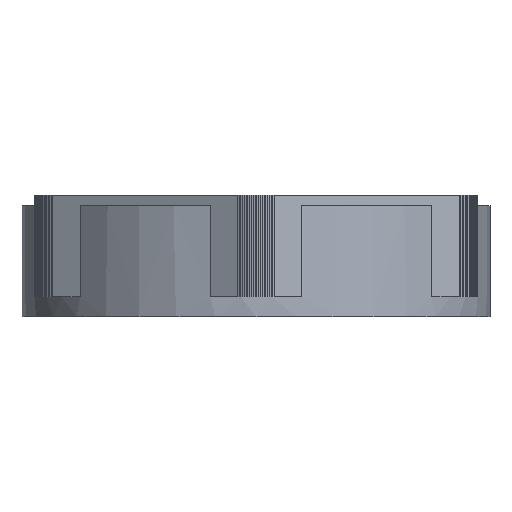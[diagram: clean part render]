
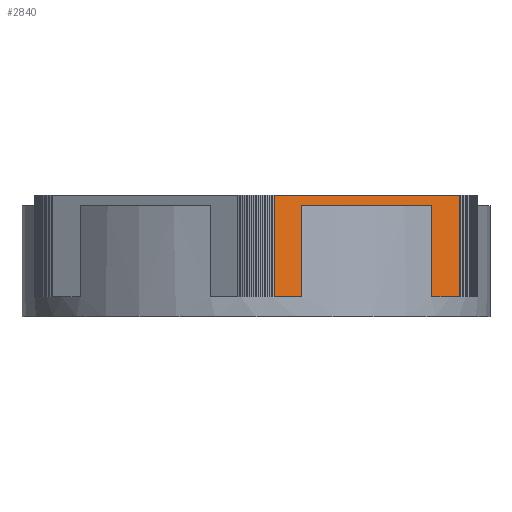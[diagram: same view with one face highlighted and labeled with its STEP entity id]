
A CAD part, left-side view. The second image highlights one B-rep face of the part: STEP entity #2840.
In plain terms, the highlighted planar face has unit normal (-0.866, -0.5, 0).
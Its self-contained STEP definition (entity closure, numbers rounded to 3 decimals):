
#32 = CYLINDRICAL_SURFACE('',#33,28.8);
#33 = AXIS2_PLACEMENT_3D('',#34,#35,#36);
#34 = CARTESIAN_POINT('',(0.,0.,6.1));
#35 = DIRECTION('',(-0.,-0.,-1.));
#36 = DIRECTION('',(1.,0.,0.));
#395 = VERTEX_POINT('',#396);
#396 = CARTESIAN_POINT('',(-28.244,-5.634,8.6));
#411 = PLANE('',#412);
#412 = AXIS2_PLACEMENT_3D('',#413,#414,#415);
#413 = CARTESIAN_POINT('',(0.,0.,8.6));
#414 = DIRECTION('',(-0.,-0.,-1.));
#415 = DIRECTION('',(-1.,0.,0.));
#423 = EDGE_CURVE('',#424,#395,#426,.T.);
#424 = VERTEX_POINT('',#425);
#425 = CARTESIAN_POINT('',(-28.244,-5.634,19.8));
#426 = SURFACE_CURVE('',#427,(#431,#437),.PCURVE_S1.);
#427 = LINE('',#428,#429);
#428 = CARTESIAN_POINT('',(-28.244,-5.634,6.1));
#429 = VECTOR('',#430,1.);
#430 = DIRECTION('',(-0.,-0.,-1.));
#431 = PCURVE('',#32,#432);
#432 = DEFINITIONAL_REPRESENTATION('',(#433),#436);
#433 = B_SPLINE_CURVE_WITH_KNOTS('',1,(#434,#435),.UNSPECIFIED.,.F.,.F.,
  (2,2),(-13.7,-1.25),.PIECEWISE_BEZIER_KNOTS.);
#434 = CARTESIAN_POINT('',(-3.338,-13.7));
#435 = CARTESIAN_POINT('',(-3.338,-1.25));
#436 = ( GEOMETRIC_REPRESENTATION_CONTEXT(2) 
PARAMETRIC_REPRESENTATION_CONTEXT() REPRESENTATION_CONTEXT('2D SPACE',''
  ) );
#437 = PCURVE('',#438,#443);
#438 = PLANE('',#439);
#439 = AXIS2_PLACEMENT_3D('',#440,#441,#442);
#440 = CARTESIAN_POINT('',(-17.047,-25.026,8.6));
#441 = DIRECTION('',(-0.866,-0.5,0.));
#442 = DIRECTION('',(-0.5,0.866,0.));
#443 = DEFINITIONAL_REPRESENTATION('',(#444),#447);
#444 = B_SPLINE_CURVE_WITH_KNOTS('',1,(#445,#446),.UNSPECIFIED.,.F.,.F.,
  (2,2),(-13.7,-1.25),.PIECEWISE_BEZIER_KNOTS.);
#445 = CARTESIAN_POINT('',(22.393,-11.2));
#446 = CARTESIAN_POINT('',(22.393,1.25));
#447 = ( GEOMETRIC_REPRESENTATION_CONTEXT(2) 
PARAMETRIC_REPRESENTATION_CONTEXT() REPRESENTATION_CONTEXT('2D SPACE',''
  ) );
#450 = VERTEX_POINT('',#451);
#451 = CARTESIAN_POINT('',(-19.001,-21.643,19.8));
#466 = PLANE('',#467);
#467 = AXIS2_PLACEMENT_3D('',#468,#469,#470);
#468 = CARTESIAN_POINT('',(0.,0.,19.8)
  );
#469 = DIRECTION('',(0.,0.,1.));
#470 = DIRECTION('',(1.,0.,-0.));
#478 = EDGE_CURVE('',#450,#479,#481,.T.);
#479 = VERTEX_POINT('',#480);
#480 = CARTESIAN_POINT('',(-19.001,-21.643,8.6));
#481 = SURFACE_CURVE('',#482,(#486,#492),.PCURVE_S1.);
#482 = LINE('',#483,#484);
#483 = CARTESIAN_POINT('',(-19.001,-21.643,6.1));
#484 = VECTOR('',#485,1.);
#485 = DIRECTION('',(-0.,-0.,-1.));
#486 = PCURVE('',#32,#487);
#487 = DEFINITIONAL_REPRESENTATION('',(#488),#491);
#488 = B_SPLINE_CURVE_WITH_KNOTS('',1,(#489,#490),.UNSPECIFIED.,.F.,.F.,
  (2,2),(-13.7,-1.25),.PIECEWISE_BEZIER_KNOTS.);
#489 = CARTESIAN_POINT('',(-3.992,-13.7));
#490 = CARTESIAN_POINT('',(-3.992,-1.25));
#491 = ( GEOMETRIC_REPRESENTATION_CONTEXT(2) 
PARAMETRIC_REPRESENTATION_CONTEXT() REPRESENTATION_CONTEXT('2D SPACE',''
  ) );
#492 = PCURVE('',#438,#493);
#493 = DEFINITIONAL_REPRESENTATION('',(#494),#497);
#494 = B_SPLINE_CURVE_WITH_KNOTS('',1,(#495,#496),.UNSPECIFIED.,.F.,.F.,
  (2,2),(-13.7,-1.25),.PIECEWISE_BEZIER_KNOTS.);
#495 = CARTESIAN_POINT('',(3.907,-11.2));
#496 = CARTESIAN_POINT('',(3.907,1.25));
#497 = ( GEOMETRIC_REPRESENTATION_CONTEXT(2) 
PARAMETRIC_REPRESENTATION_CONTEXT() REPRESENTATION_CONTEXT('2D SPACE',''
  ) );
#516 = PLANE('',#517);
#517 = AXIS2_PLACEMENT_3D('',#518,#519,#520);
#518 = CARTESIAN_POINT('',(0.,0.,8.6));
#519 = DIRECTION('',(-0.,-0.,-1.));
#520 = DIRECTION('',(-1.,0.,0.));
#1411 = PLANE('',#1412);
#1412 = AXIS2_PLACEMENT_3D('',#1413,#1414,#1415);
#1413 = CARTESIAN_POINT('',(0.,0.,21.1)
  );
#1414 = DIRECTION('',(-0.,-0.,-1.));
#1415 = DIRECTION('',(-1.,0.,0.));
#2793 = VERTEX_POINT('',#2794);
#2794 = CARTESIAN_POINT('',(-17.047,-25.026,8.6));
#2808 = PLANE('',#2809);
#2809 = AXIS2_PLACEMENT_3D('',#2810,#2811,#2812);
#2810 = CARTESIAN_POINT('',(-16.93,-25.218,8.6));
#2811 = DIRECTION('',(-0.853,-0.521,0.));
#2812 = DIRECTION('',(-0.521,0.853,0.));
#2820 = EDGE_CURVE('',#2793,#479,#2821,.T.);
#2821 = SURFACE_CURVE('',#2822,(#2826,#2833),.PCURVE_S1.);
#2822 = LINE('',#2823,#2824);
#2823 = CARTESIAN_POINT('',(-17.047,-25.026,8.6));
#2824 = VECTOR('',#2825,1.);
#2825 = DIRECTION('',(-0.5,0.866,0.));
#2826 = PCURVE('',#516,#2827);
#2827 = DEFINITIONAL_REPRESENTATION('',(#2828),#2832);
#2828 = LINE('',#2829,#2830);
#2829 = CARTESIAN_POINT('',(17.047,-25.026));
#2830 = VECTOR('',#2831,1.);
#2831 = DIRECTION('',(0.5,0.866));
#2832 = ( GEOMETRIC_REPRESENTATION_CONTEXT(2) 
PARAMETRIC_REPRESENTATION_CONTEXT() REPRESENTATION_CONTEXT('2D SPACE',''
  ) );
#2833 = PCURVE('',#438,#2834);
#2834 = DEFINITIONAL_REPRESENTATION('',(#2835),#2839);
#2835 = LINE('',#2836,#2837);
#2836 = CARTESIAN_POINT('',(0.,0.));
#2837 = VECTOR('',#2838,1.);
#2838 = DIRECTION('',(1.,0.));
#2839 = ( GEOMETRIC_REPRESENTATION_CONTEXT(2) 
PARAMETRIC_REPRESENTATION_CONTEXT() REPRESENTATION_CONTEXT('2D SPACE',''
  ) );
#2840 = ADVANCED_FACE('',(#2841),#438,.T.);
#2841 = FACE_BOUND('',#2842,.T.);
#2842 = EDGE_LOOP('',(#2843,#2844,#2867,#2890,#2918,#2939,#2940,#2959));
#2843 = ORIENTED_EDGE('',*,*,#2820,.F.);
#2844 = ORIENTED_EDGE('',*,*,#2845,.T.);
#2845 = EDGE_CURVE('',#2793,#2846,#2848,.T.);
#2846 = VERTEX_POINT('',#2847);
#2847 = CARTESIAN_POINT('',(-17.047,-25.026,21.1));
#2848 = SURFACE_CURVE('',#2849,(#2853,#2860),.PCURVE_S1.);
#2849 = LINE('',#2850,#2851);
#2850 = CARTESIAN_POINT('',(-17.047,-25.026,8.6));
#2851 = VECTOR('',#2852,1.);
#2852 = DIRECTION('',(0.,0.,1.));
#2853 = PCURVE('',#438,#2854);
#2854 = DEFINITIONAL_REPRESENTATION('',(#2855),#2859);
#2855 = LINE('',#2856,#2857);
#2856 = CARTESIAN_POINT('',(0.,0.));
#2857 = VECTOR('',#2858,1.);
#2858 = DIRECTION('',(0.,-1.));
#2859 = ( GEOMETRIC_REPRESENTATION_CONTEXT(2) 
PARAMETRIC_REPRESENTATION_CONTEXT() REPRESENTATION_CONTEXT('2D SPACE',''
  ) );
#2860 = PCURVE('',#2808,#2861);
#2861 = DEFINITIONAL_REPRESENTATION('',(#2862),#2866);
#2862 = LINE('',#2863,#2864);
#2863 = CARTESIAN_POINT('',(0.224,0.));
#2864 = VECTOR('',#2865,1.);
#2865 = DIRECTION('',(0.,-1.));
#2866 = ( GEOMETRIC_REPRESENTATION_CONTEXT(2) 
PARAMETRIC_REPRESENTATION_CONTEXT() REPRESENTATION_CONTEXT('2D SPACE',''
  ) );
#2867 = ORIENTED_EDGE('',*,*,#2868,.T.);
#2868 = EDGE_CURVE('',#2846,#2869,#2871,.T.);
#2869 = VERTEX_POINT('',#2870);
#2870 = CARTESIAN_POINT('',(-30.197,-2.25,21.1));
#2871 = SURFACE_CURVE('',#2872,(#2876,#2883),.PCURVE_S1.);
#2872 = LINE('',#2873,#2874);
#2873 = CARTESIAN_POINT('',(-17.047,-25.026,21.1));
#2874 = VECTOR('',#2875,1.);
#2875 = DIRECTION('',(-0.5,0.866,0.));
#2876 = PCURVE('',#438,#2877);
#2877 = DEFINITIONAL_REPRESENTATION('',(#2878),#2882);
#2878 = LINE('',#2879,#2880);
#2879 = CARTESIAN_POINT('',(0.,-12.5));
#2880 = VECTOR('',#2881,1.);
#2881 = DIRECTION('',(1.,0.));
#2882 = ( GEOMETRIC_REPRESENTATION_CONTEXT(2) 
PARAMETRIC_REPRESENTATION_CONTEXT() REPRESENTATION_CONTEXT('2D SPACE',''
  ) );
#2883 = PCURVE('',#1411,#2884);
#2884 = DEFINITIONAL_REPRESENTATION('',(#2885),#2889);
#2885 = LINE('',#2886,#2887);
#2886 = CARTESIAN_POINT('',(17.047,-25.026));
#2887 = VECTOR('',#2888,1.);
#2888 = DIRECTION('',(0.5,0.866));
#2889 = ( GEOMETRIC_REPRESENTATION_CONTEXT(2) 
PARAMETRIC_REPRESENTATION_CONTEXT() REPRESENTATION_CONTEXT('2D SPACE',''
  ) );
#2890 = ORIENTED_EDGE('',*,*,#2891,.F.);
#2891 = EDGE_CURVE('',#2892,#2869,#2894,.T.);
#2892 = VERTEX_POINT('',#2893);
#2893 = CARTESIAN_POINT('',(-30.197,-2.25,8.6));
#2894 = SURFACE_CURVE('',#2895,(#2899,#2906),.PCURVE_S1.);
#2895 = LINE('',#2896,#2897);
#2896 = CARTESIAN_POINT('',(-30.197,-2.25,8.6));
#2897 = VECTOR('',#2898,1.);
#2898 = DIRECTION('',(0.,0.,1.));
#2899 = PCURVE('',#438,#2900);
#2900 = DEFINITIONAL_REPRESENTATION('',(#2901),#2905);
#2901 = LINE('',#2902,#2903);
#2902 = CARTESIAN_POINT('',(26.3,0.));
#2903 = VECTOR('',#2904,1.);
#2904 = DIRECTION('',(0.,-1.));
#2905 = ( GEOMETRIC_REPRESENTATION_CONTEXT(2) 
PARAMETRIC_REPRESENTATION_CONTEXT() REPRESENTATION_CONTEXT('2D SPACE',''
  ) );
#2906 = PCURVE('',#2907,#2912);
#2907 = PLANE('',#2908);
#2908 = AXIS2_PLACEMENT_3D('',#2909,#2910,#2911);
#2909 = CARTESIAN_POINT('',(-30.197,-2.25,8.6));
#2910 = DIRECTION('',(-0.878,-0.478,0.));
#2911 = DIRECTION('',(-0.478,0.878,0.));
#2912 = DEFINITIONAL_REPRESENTATION('',(#2913),#2917);
#2913 = LINE('',#2914,#2915);
#2914 = CARTESIAN_POINT('',(0.,0.));
#2915 = VECTOR('',#2916,1.);
#2916 = DIRECTION('',(0.,-1.));
#2917 = ( GEOMETRIC_REPRESENTATION_CONTEXT(2) 
PARAMETRIC_REPRESENTATION_CONTEXT() REPRESENTATION_CONTEXT('2D SPACE',''
  ) );
#2918 = ORIENTED_EDGE('',*,*,#2919,.F.);
#2919 = EDGE_CURVE('',#395,#2892,#2920,.T.);
#2920 = SURFACE_CURVE('',#2921,(#2925,#2932),.PCURVE_S1.);
#2921 = LINE('',#2922,#2923);
#2922 = CARTESIAN_POINT('',(-17.047,-25.026,8.6));
#2923 = VECTOR('',#2924,1.);
#2924 = DIRECTION('',(-0.5,0.866,0.));
#2925 = PCURVE('',#438,#2926);
#2926 = DEFINITIONAL_REPRESENTATION('',(#2927),#2931);
#2927 = LINE('',#2928,#2929);
#2928 = CARTESIAN_POINT('',(0.,0.));
#2929 = VECTOR('',#2930,1.);
#2930 = DIRECTION('',(1.,0.));
#2931 = ( GEOMETRIC_REPRESENTATION_CONTEXT(2) 
PARAMETRIC_REPRESENTATION_CONTEXT() REPRESENTATION_CONTEXT('2D SPACE',''
  ) );
#2932 = PCURVE('',#411,#2933);
#2933 = DEFINITIONAL_REPRESENTATION('',(#2934),#2938);
#2934 = LINE('',#2935,#2936);
#2935 = CARTESIAN_POINT('',(17.047,-25.026));
#2936 = VECTOR('',#2937,1.);
#2937 = DIRECTION('',(0.5,0.866));
#2938 = ( GEOMETRIC_REPRESENTATION_CONTEXT(2) 
PARAMETRIC_REPRESENTATION_CONTEXT() REPRESENTATION_CONTEXT('2D SPACE',''
  ) );
#2939 = ORIENTED_EDGE('',*,*,#423,.F.);
#2940 = ORIENTED_EDGE('',*,*,#2941,.T.);
#2941 = EDGE_CURVE('',#424,#450,#2942,.T.);
#2942 = SURFACE_CURVE('',#2943,(#2947,#2953),.PCURVE_S1.);
#2943 = LINE('',#2944,#2945);
#2944 = CARTESIAN_POINT('',(-20.335,-19.332,19.8));
#2945 = VECTOR('',#2946,1.);
#2946 = DIRECTION('',(0.5,-0.866,0.));
#2947 = PCURVE('',#438,#2948);
#2948 = DEFINITIONAL_REPRESENTATION('',(#2949),#2952);
#2949 = B_SPLINE_CURVE_WITH_KNOTS('',1,(#2950,#2951),.UNSPECIFIED.,.F.,
  .F.,(2,2),(-16.931,6.575),.PIECEWISE_BEZIER_KNOTS.);
#2950 = CARTESIAN_POINT('',(23.506,-11.2));
#2951 = CARTESIAN_POINT('',(0.,-11.2));
#2952 = ( GEOMETRIC_REPRESENTATION_CONTEXT(2) 
PARAMETRIC_REPRESENTATION_CONTEXT() REPRESENTATION_CONTEXT('2D SPACE',''
  ) );
#2953 = PCURVE('',#466,#2954);
#2954 = DEFINITIONAL_REPRESENTATION('',(#2955),#2958);
#2955 = B_SPLINE_CURVE_WITH_KNOTS('',1,(#2956,#2957),.UNSPECIFIED.,.F.,
  .F.,(2,2),(-16.931,6.575),.PIECEWISE_BEZIER_KNOTS.);
#2956 = CARTESIAN_POINT('',(-28.8,-4.67));
#2957 = CARTESIAN_POINT('',(-17.047,-25.026));
#2958 = ( GEOMETRIC_REPRESENTATION_CONTEXT(2) 
PARAMETRIC_REPRESENTATION_CONTEXT() REPRESENTATION_CONTEXT('2D SPACE',''
  ) );
#2959 = ORIENTED_EDGE('',*,*,#478,.T.);
